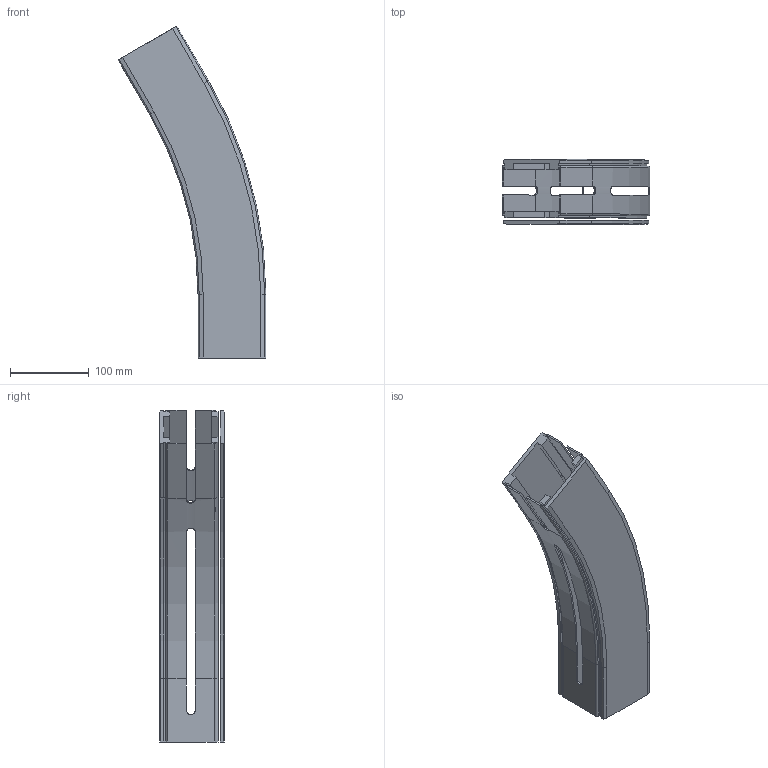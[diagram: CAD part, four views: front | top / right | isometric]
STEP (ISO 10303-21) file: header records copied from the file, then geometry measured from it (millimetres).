
FILE_DESCRIPTION((''),'2;1');
FILE_NAME('C:\Vault Klient\Projekt\Koncept konstruktion\Serie 530 Balk\530-5290.stp','2010-12-01T08:15:57',('Mathias'),(''),'Autodesk Inventor 2011','Autodesk Inventor 2011','');
FILE_SCHEMA(('AUTOMOTIVE_DESIGN { 1 0 10303 214 1 1 1 1 }'));
Length unit declared in the file: millimetre
Products named in the file (1): 530-5290
Bounding box: 187.23 x 82 x 420.78 mm (x, y, z)
Volume: 611016.8 mm3; surface area: 293884 mm2
Topology: 2 solids, 2 shells, 163 faces, 458 edges, 300 vertices
Faces by surface type: plane 107, cylinder 30, bspline 18, torus 4, cone 4
Entity records: 5598 total; most frequent: CARTESIAN_POINT 1344, ORIENTED_EDGE 916, DIRECTION 798, EDGE_CURVE 458, VECTOR 338, LINE 338, VERTEX_POINT 300, AXIS2_PLACEMENT_3D 230
